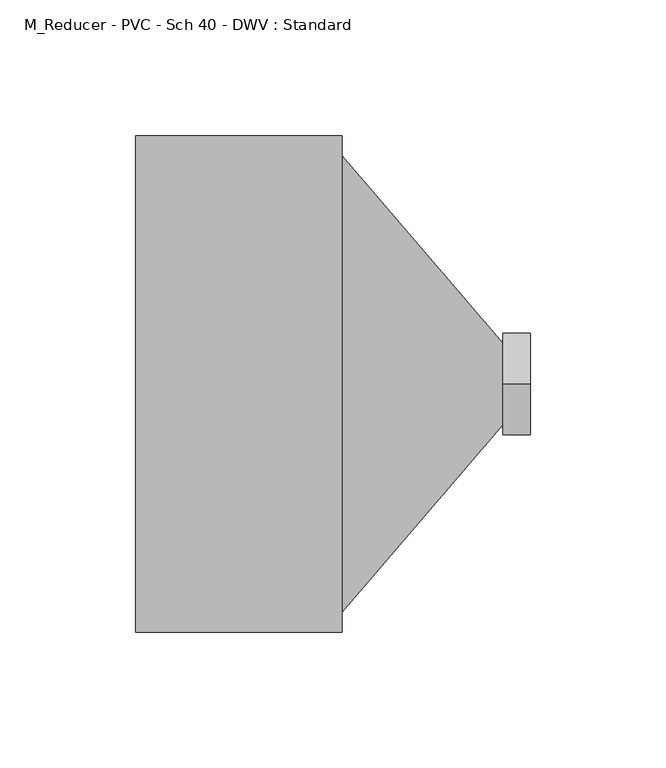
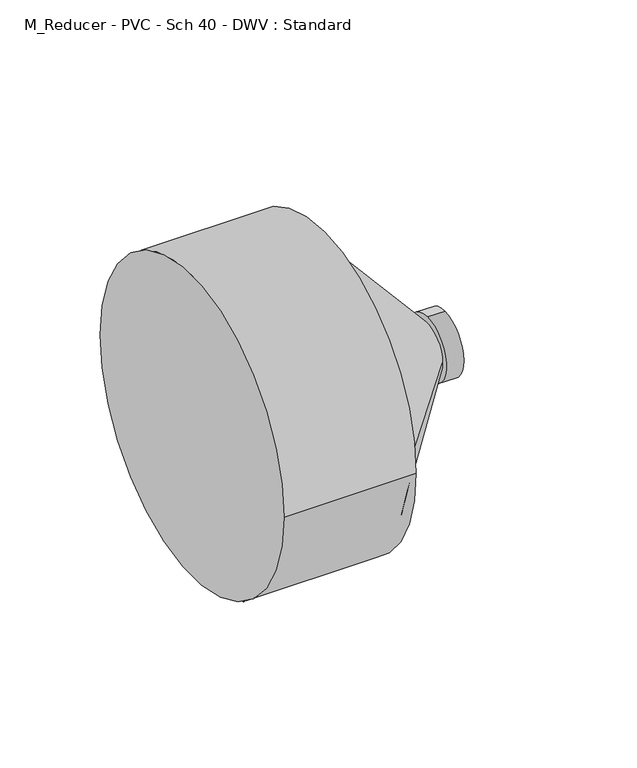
"""IFC4 building model written with IfcOpenShell, lengths in millimetres: pipe fitting geometry, M_Reducer - PVC - Sch 40 - DWV : Standard."""

from ifc_helpers import new_model, si_unit, frame, origin, place, context, project, spatial, polyline, circle_curve, source, transform, mapped, element, save
from ifc_brep_helpers import plane_surface, cylinder_surface, revolved_surface, advanced_brep


def m_reducer_pvc_sch_40_dwv_standard_9ac772d5(model_context):
    return source(origin(), model_context, "Body", "AdvancedBrep", [
        advanced_brep(
        [(0.0, -91.5543, 0.0), (0.0, 91.5543, 0.0), (76.2, -91.5543, 0.0), (76.2, 91.5543, 0.0), (76.2, 84.1375, 0.0), (76.2, -84.1375, 0.0), (135.5960938, 14.9640625, 0.0), (135.5960938, -14.9640625, 0.0), (135.5960938, 0.0, 18.7871094), (135.5960938, 0.0, -18.7871094), (145.5960938, 0.0, 18.7871094), (145.5960938, 0.0, -18.7871094)],
        [
            (0, 1, circle_curve(frame((0.0, 0.0, 0.0), z_axis=(-1.0, 0.0, 0.0), x_axis=(0.0, 1.0, 0.0)), 91.5543)),
            (1, 0, circle_curve(frame((0.0, 0.0, 0.0), z_axis=(-1.0, 0.0, 0.0), x_axis=(0.0, 1.0, 0.0)), 91.5543)),
            (2, 3, circle_curve(frame((76.2, 0.0, 0.0), z_axis=(1.0, 0.0, 0.0), x_axis=(0.0, 1.0, 0.0)), 91.5543)),
            (3, 2, circle_curve(frame((76.2, 0.0, 0.0), z_axis=(1.0, 0.0, 0.0), x_axis=(0.0, 1.0, 0.0)), 91.5543)),
            (4, 5, circle_curve(frame((76.2, 0.0, 0.0), z_axis=(-1.0, 0.0, 0.0), x_axis=(0.0, -1.0, 0.0)), 84.1375)),
            (5, 4, circle_curve(frame((76.2, 0.0, 0.0), z_axis=(-1.0, 0.0, 0.0), x_axis=(0.0, 1.0, 0.0)), 84.1375)),
            (0, 2),
            (3, 1),
            (4, 6),
            (6, 7, circle_curve(frame((135.5960938, 0.0, 0.0), z_axis=(-1.0, 0.0, 0.0), x_axis=(0.0, -1.0, 0.0)), 14.9640625)),
            (7, 5),
            (7, 6, circle_curve(frame((135.5960938, 0.0, 0.0), z_axis=(-1.0, 0.0, 0.0), x_axis=(0.0, 1.0, 0.0)), 14.9640625)),
            (8, 9, circle_curve(frame((135.5960938, 0.0, 0.0), z_axis=(-1.0, 0.0, 0.0), x_axis=(0.0, 0.0, -1.0)), 18.7871094)),
            (9, 8, circle_curve(frame((135.5960938, 0.0, 0.0), z_axis=(-1.0, 0.0, 0.0), x_axis=(0.0, 0.0, -1.0)), 18.7871094)),
            (10, 11, circle_curve(frame((145.5960938, 0.0, 0.0), z_axis=(1.0, 0.0, 0.0), x_axis=(0.0, 0.0, -1.0)), 18.7871094)),
            (11, 10, circle_curve(frame((145.5960938, 0.0, 0.0), z_axis=(1.0, 0.0, 0.0), x_axis=(0.0, 0.0, -1.0)), 18.7871094)),
            (8, 10),
            (11, 9),
        ],
        [
            plane_surface(frame((0.0, 0.0, 0.0), z_axis=(-1.0, 0.0, 0.0), x_axis=(0.0, 0.0, 1.0))),
            plane_surface(frame((76.2, 0.0, 0.0), z_axis=(1.0, 0.0, 0.0), x_axis=(0.0, 0.0, 1.0))),
            cylinder_surface(frame((0.0, 0.0, 0.0), z_axis=(-1.0, 0.0, 0.0), x_axis=(0.0, 1.0, 0.0)), 91.5543),
            revolved_surface(polyline([(135.5960938, 14.964062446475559, 0.0), (76.2, 84.1375, 0.0)]), (148.4450556, 0.0, 0.0), (-1.0, 0.0, 0.0)),
            plane_surface(frame((135.5960938, 0.0, 0.0), z_axis=(-1.0, 0.0, 0.0), x_axis=(0.0, 1.0, 0.0))),
            plane_surface(frame((145.5960938, 0.0, 0.0), z_axis=(1.0, 0.0, 0.0), x_axis=(0.0, 1.0, 0.0))),
            cylinder_surface(frame((135.5960938, 0.0, 0.0), z_axis=(-1.0, 0.0, 0.0), x_axis=(0.0, 0.0, -1.0)), 18.7871094),
        ],
        [
            (0, [[1, 2]]),
            (1, [[3, 4], [5, 6]]),
            (2, [[-1, 7, -4, 8]]),
            (2, [[-2, -8, -3, -7]]),
            (3, [[9, 10, 11, -5]]),
            (3, [[-9, -6, -11, 12]]),
            (4, [[13, 14], [-10, -12]]),
            (5, [[15, 16]]),
            (6, [[-13, 17, -16, 18]]),
            (6, [[-14, -18, -15, -17]]),
        ],
    ),
    ])


if __name__ == "__main__":
    model = new_model("IFC4")
    model_context = context("Model", 3, world=origin())
    ifc_project = project(units=[si_unit("LENGTHUNIT", "METRE", prefix="MILLI")], contexts=[model_context])
    site = spatial("IfcSite", under=ifc_project)
    building = spatial("IfcBuilding", under=site)
    placement = place(None, origin())
    m_reducer_pvc_sch_40_dwv_standard_shape = m_reducer_pvc_sch_40_dwv_standard_9ac772d5(model_context)
    element("IfcPipeFitting", 1, ObjectType="M_Reducer - PVC - Sch 40 - DWV : Standard", at=placement, inside=building, context=model_context, shape_type="MappedRepresentation", body=[
        mapped(m_reducer_pvc_sch_40_dwv_standard_shape, transform((0.0, 0.0, 0.0), x_axis=(1.0, 0.0, 0.0), y_axis=(0.0, 1.0, 0.0), z_axis=(0.0, 0.0, 1.0))),
    ])
    save(model, "model.ifc")
